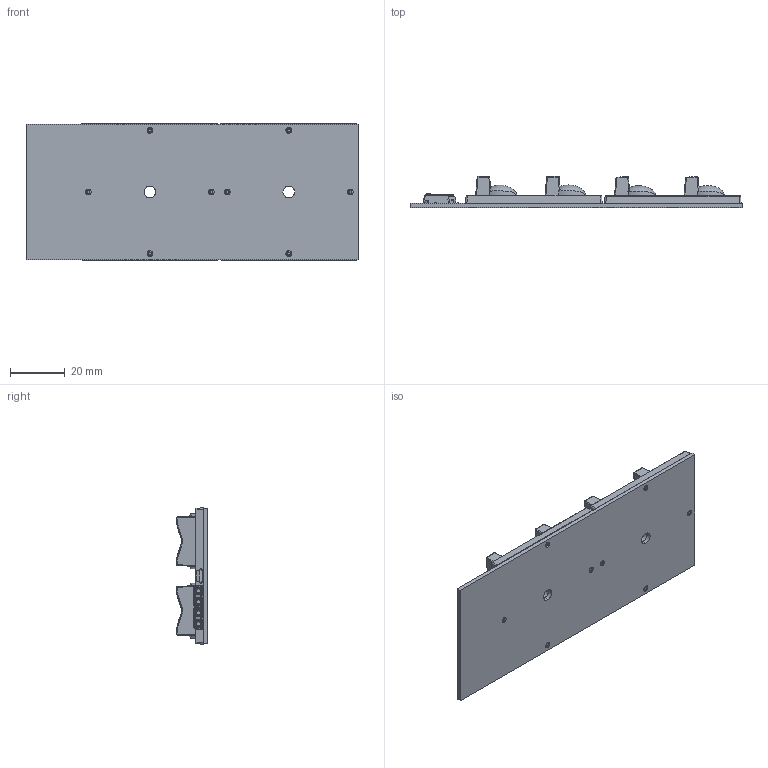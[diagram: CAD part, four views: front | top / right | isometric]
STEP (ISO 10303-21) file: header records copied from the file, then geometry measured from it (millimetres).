
FILE_DESCRIPTION (( 'STEP AP214' ), '1' );
FILE_NAME ('PCB WU-M-630_8 with P2M.STEP', '2019-11-20T06:42:08', ( '' ), ( '' ), 'SwSTEP 2.0', 'SolidWorks 2017', '' );
FILE_SCHEMA (( 'AUTOMOTIVE_DESIGN' ));
Length unit declared in the file: millimetre
Products named in the file (11): VSO-Logo-3mm; R0603; LH508B; PCB WU-M-630_8; PCB WU-M-630_8 with P2M; RED-P2M2x2Optics; DO214AC; Built-In LED Module-3mm; MCC-SMD-2P; CE-Zeichen-3mm
Assembly tree (20 placements, depth 3):
  PCB WU-M-630_8 with P2M
    PCB WU-M-630_8
      PCB WU-M-630_8
      LH508B  x8
      R0603  x2
      DO214AC
      MCC-SMD-2P  x2
      Built-In LED Module-3mm
      VSO-Logo-3mm
      CE-Zeichen-3mm
    RED-P2M2x2Optics  x2
Bounding box: 121.4 x 11.34 x 50 mm (x, y, z)
Volume: 30483.1 mm3; surface area: 28595.5 mm2
Topology: 41 solids, 41 shells, 6324 faces, 17494 edges, 11418 vertices
Faces by surface type: plane 3853, bspline 1458, cylinder 749, cone 260, torus 4
Entity records: 186032 total; most frequent: CARTESIAN_POINT 86900, ORIENTED_EDGE 18524, DIRECTION 12012, EDGE_CURVE 9262, VECTOR 6088, LINE 6088, VERTEX_POINT 6053, EDGE_LOOP 3687
